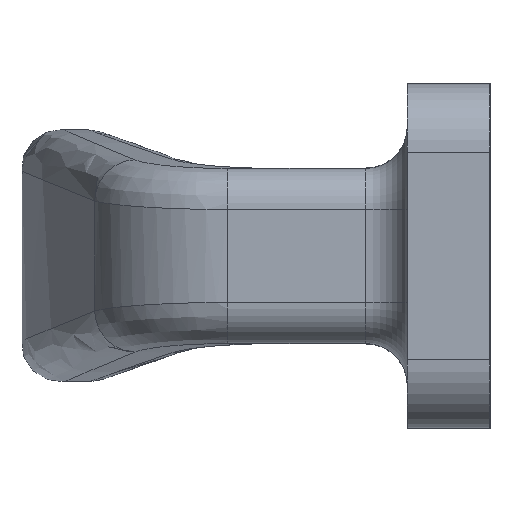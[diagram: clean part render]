
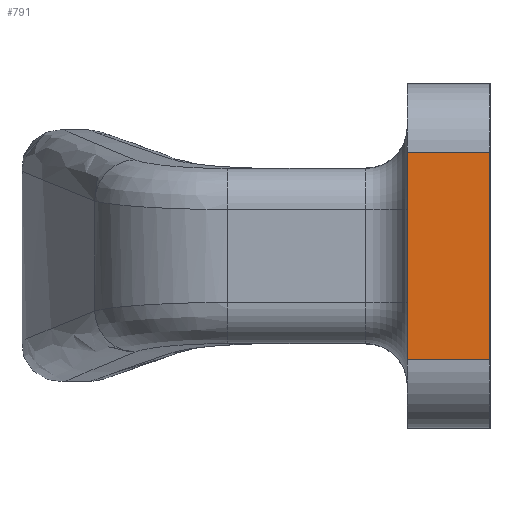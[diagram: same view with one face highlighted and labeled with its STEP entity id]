
A CAD part, left-side view. The second image highlights one B-rep face of the part: STEP entity #791.
In plain terms, the highlighted planar face has unit normal (-1, 0, 0).
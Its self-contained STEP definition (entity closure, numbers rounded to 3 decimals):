
#7 = ORIENTED_EDGE ( 'NONE', *, *, #1437, .T. ) ;
#44 = CARTESIAN_POINT ( 'NONE',  ( -72.5, 6., 7.5 ) ) ;
#262 = PLANE ( 'NONE',  #3026 ) ;
#420 = VECTOR ( 'NONE', #1497, 1000. ) ;
#503 = DIRECTION ( 'NONE',  ( 0., 0., -1. ) ) ;
#510 = VERTEX_POINT ( 'NONE', #1053 ) ;
#545 = EDGE_LOOP ( 'NONE', ( #2054, #1561, #1289, #7 ) ) ;
#747 = FACE_OUTER_BOUND ( 'NONE', #545, .T. ) ;
#757 = EDGE_CURVE ( 'NONE', #1575, #510, #1484, .T. ) ;
#791 = ADVANCED_FACE ( 'NONE', ( #747 ), #262, .F. ) ;
#981 = CARTESIAN_POINT ( 'NONE',  ( -72.5, 6., -7.5 ) ) ;
#984 = LINE ( 'NONE', #44, #420 ) ;
#997 = EDGE_CURVE ( 'NONE', #510, #2153, #984, .T. ) ;
#1033 = DIRECTION ( 'NONE',  ( 0., 0., 1. ) ) ;
#1053 = CARTESIAN_POINT ( 'NONE',  ( -72.5, 6., 7.5 ) ) ;
#1259 = VERTEX_POINT ( 'NONE', #2753 ) ;
#1289 = ORIENTED_EDGE ( 'NONE', *, *, #757, .F. ) ;
#1389 = VECTOR ( 'NONE', #2468, 1000. ) ;
#1437 = EDGE_CURVE ( 'NONE', #1575, #1259, #2675, .T. ) ;
#1480 = DIRECTION ( 'NONE',  ( 0., -1., 0. ) ) ;
#1484 = LINE ( 'NONE', #2427, #1389 ) ;
#1497 = DIRECTION ( 'NONE',  ( 0., -1., 0. ) ) ;
#1524 = CARTESIAN_POINT ( 'NONE',  ( -72.5, 0., 7.5 ) ) ;
#1552 = LINE ( 'NONE', #2454, #2718 ) ;
#1561 = ORIENTED_EDGE ( 'NONE', *, *, #997, .F. ) ;
#1575 = VERTEX_POINT ( 'NONE', #2277 ) ;
#1645 = VECTOR ( 'NONE', #1480, 1000. ) ;
#1701 = CARTESIAN_POINT ( 'NONE',  ( -72.5, 6., -7.5 ) ) ;
#2054 = ORIENTED_EDGE ( 'NONE', *, *, #2372, .T. ) ;
#2153 = VERTEX_POINT ( 'NONE', #1524 ) ;
#2277 = CARTESIAN_POINT ( 'NONE',  ( -72.5, 6., -7.5 ) ) ;
#2372 = EDGE_CURVE ( 'NONE', #1259, #2153, #1552, .T. ) ;
#2427 = CARTESIAN_POINT ( 'NONE',  ( -72.5, 6., -7.5 ) ) ;
#2454 = CARTESIAN_POINT ( 'NONE',  ( -72.5, 0., -7.5 ) ) ;
#2468 = DIRECTION ( 'NONE',  ( 0., 0., 1. ) ) ;
#2675 = LINE ( 'NONE', #981, #1645 ) ;
#2718 = VECTOR ( 'NONE', #1033, 1000. ) ;
#2753 = CARTESIAN_POINT ( 'NONE',  ( -72.5, 0., -7.5 ) ) ;
#2972 = DIRECTION ( 'NONE',  ( 1., 0., 0. ) ) ;
#3026 = AXIS2_PLACEMENT_3D ( 'NONE', #1701, #2972, #503 ) ;
